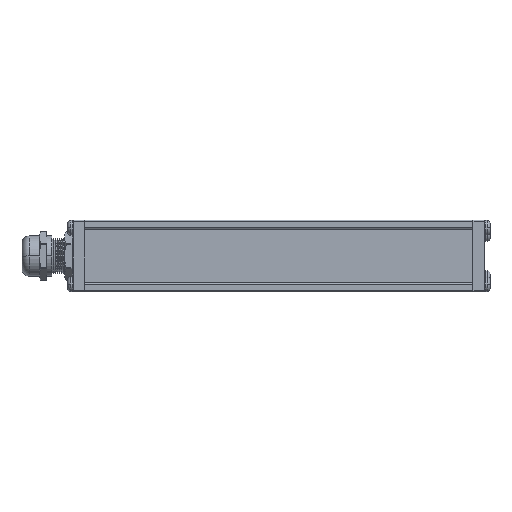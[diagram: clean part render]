
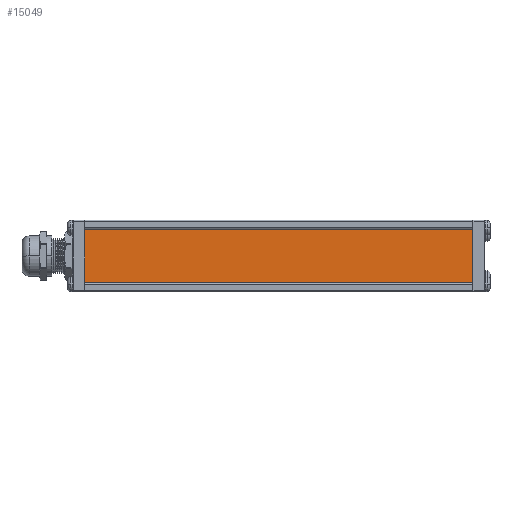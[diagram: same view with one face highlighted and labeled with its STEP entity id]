
A CAD part, top view. The second image highlights one B-rep face of the part: STEP entity #15049.
In plain terms, the highlighted planar face has unit normal (0, 0, 1) as drawn and (0, 1, 0) by its records, which use the part's own axes.
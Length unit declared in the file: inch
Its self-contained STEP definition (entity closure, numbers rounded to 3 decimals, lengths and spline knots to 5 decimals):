
#149 = CARTESIAN_POINT ( 'NONE',  ( -2.135, 0.03, 0.344 ) ) ;
#333 = CARTESIAN_POINT ( 'NONE',  ( 2.135, 0.03, -0.344 ) ) ;
#1358 = LINE ( 'NONE', #7598, #5806 ) ;
#2890 = LINE ( 'NONE', #23326, #29715 ) ;
#4251 = ORIENTED_EDGE ( 'NONE', *, *, #27174, .F. ) ;
#4375 = ORIENTED_EDGE ( 'NONE', *, *, #24401, .F. ) ;
#5205 = ORIENTED_EDGE ( 'NONE', *, *, #11685, .T. ) ;
#5613 = VERTEX_POINT ( 'NONE', #23085 ) ;
#5646 = LINE ( 'NONE', #5849, #13475 ) ;
#5647 = DIRECTION ( 'NONE',  ( 0., 0., 1. ) ) ;
#5806 = VECTOR ( 'NONE', #17182, 39.37008 ) ;
#5849 = CARTESIAN_POINT ( 'NONE',  ( 2.135, 0.03, 0.344 ) ) ;
#5851 = CARTESIAN_POINT ( 'NONE',  ( 2.135, 0.03, 0.344 ) ) ;
#6478 = DIRECTION ( 'NONE',  ( 0., -1., 0. ) ) ;
#7000 = AXIS2_PLACEMENT_3D ( 'NONE', #20758, #6478, #23140 ) ;
#7598 = CARTESIAN_POINT ( 'NONE',  ( 2.135, 0.03, 0.344 ) ) ;
#7632 = ORIENTED_EDGE ( 'NONE', *, *, #26978, .T. ) ;
#8972 = VERTEX_POINT ( 'NONE', #149 ) ;
#11414 = VERTEX_POINT ( 'NONE', #5851 ) ;
#11685 = EDGE_CURVE ( 'NONE', #5613, #8972, #26433, .T. ) ;
#12184 = DIRECTION ( 'NONE',  ( 0., 0., 1. ) ) ;
#13475 = VECTOR ( 'NONE', #5647, 39.37008 ) ;
#14333 = VERTEX_POINT ( 'NONE', #333 ) ;
#15049 = ADVANCED_FACE ( 'NONE', ( #19542 ), #23356, .F. ) ;
#16457 = DIRECTION ( 'NONE',  ( -1., 0., 0. ) ) ;
#17182 = DIRECTION ( 'NONE',  ( -1., 0., 0. ) ) ;
#19542 = FACE_OUTER_BOUND ( 'NONE', #24501, .T. ) ;
#20758 = CARTESIAN_POINT ( 'NONE',  ( 2.135, 0.03, 0.344 ) ) ;
#21764 = CARTESIAN_POINT ( 'NONE',  ( -2.135, 0.03, 0.344 ) ) ;
#23085 = CARTESIAN_POINT ( 'NONE',  ( -2.135, 0.03, -0.344 ) ) ;
#23140 = DIRECTION ( 'NONE',  ( 0., 0., -1. ) ) ;
#23326 = CARTESIAN_POINT ( 'NONE',  ( 2.135, 0.03, -0.344 ) ) ;
#23356 = PLANE ( 'NONE',  #7000 ) ;
#24401 = EDGE_CURVE ( 'NONE', #14333, #11414, #5646, .T. ) ;
#24501 = EDGE_LOOP ( 'NONE', ( #5205, #4251, #4375, #7632 ) ) ;
#26433 = LINE ( 'NONE', #21764, #28350 ) ;
#26978 = EDGE_CURVE ( 'NONE', #14333, #5613, #2890, .T. ) ;
#27174 = EDGE_CURVE ( 'NONE', #11414, #8972, #1358, .T. ) ;
#28350 = VECTOR ( 'NONE', #12184, 39.37008 ) ;
#29715 = VECTOR ( 'NONE', #16457, 39.37008 ) ;
